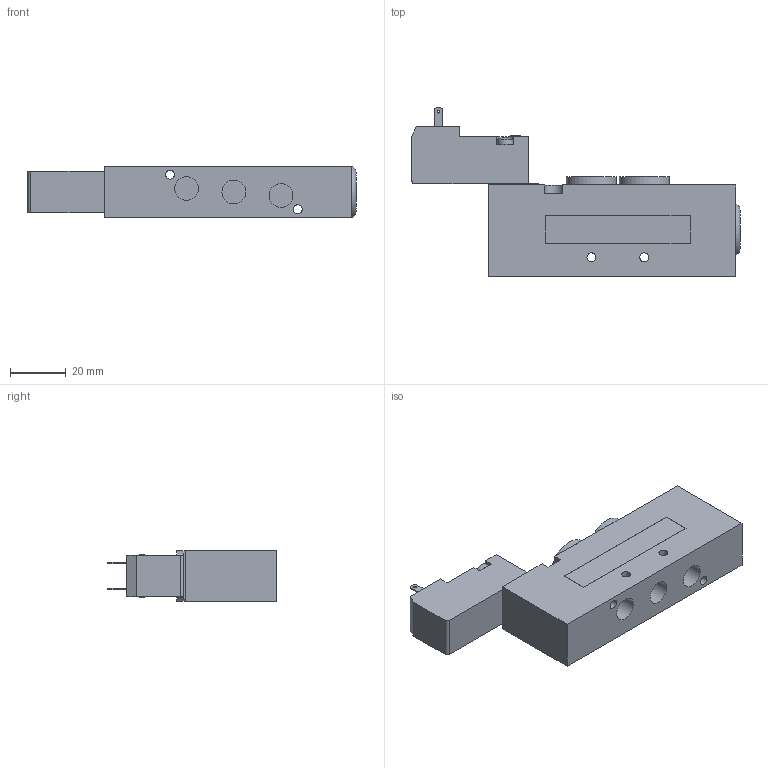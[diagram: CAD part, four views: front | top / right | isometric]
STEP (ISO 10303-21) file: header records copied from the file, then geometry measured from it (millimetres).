
FILE_DESCRIPTION(/* description */ ('EV. LINE 5/2 1/8" SOL.-MOLLA'),/* implementation_level */ '2;1');
FILE_NAME(/* name */ 'C:\Users\maniean1\Desktop\2415_52_00_39_0#.stp',/* time_stamp */ '2019-07-30T09:04:43+02:00',/* author */ ('maniean1'),/* organization */ ('Pneumax S.p.A.'),/* preprocessor_version */ 'ST-DEVELOPER v17',/* originating_system */ 'Autodesk Inventor 2019',/* authorisation */ '');
FILE_SCHEMA (('AUTOMOTIVE_DESIGN { 1 0 10303 214 3 1 1 }'));
Length unit declared in the file: millimetre
Products named in the file (3): 2415.52.00.39.0#; 2415.52.00.39; N33_.0_
Assembly tree (2 placements, depth 2):
  2415.52.00.39.0#
    2415.52.00.39
    N33_.0_
Bounding box: 118.1 x 60.99 x 18.5 mm (x, y, z)
Volume: 63706.3 mm3; surface area: 17752.9 mm2
Topology: 3 solids, 3 shells, 145 faces, 379 edges, 262 vertices
Faces by surface type: plane 105, cylinder 34, cone 3, sphere 2, torus 1
Full cylindrical faces by diameter (mm): 1 x2, 2 x3, 3 x4, 3.1 x2, 3.2 x4, 3.9 x1, 4.2 x2, 5.8 x2, 8.566 x5, 18 x2
Entity records: 4791 total; most frequent: DIRECTION 814, CARTESIAN_POINT 788, ORIENTED_EDGE 752, EDGE_CURVE 376, AXIS2_PLACEMENT_3D 288, VERTEX_POINT 262, LINE 238, VECTOR 238
